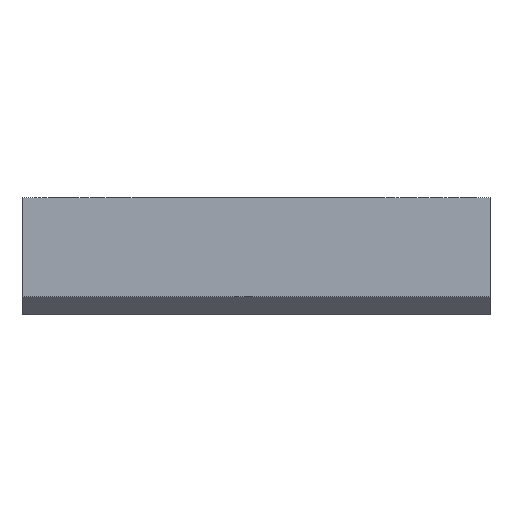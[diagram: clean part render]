
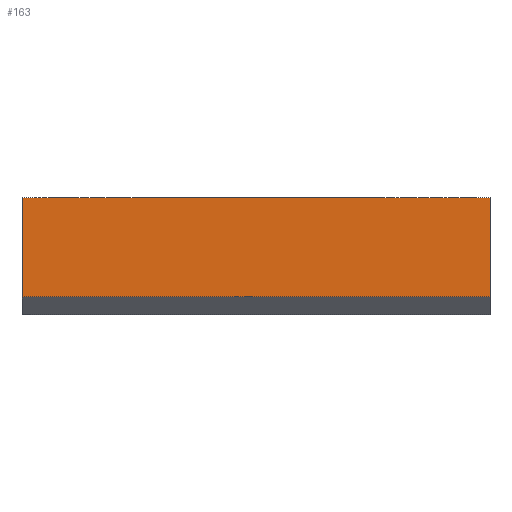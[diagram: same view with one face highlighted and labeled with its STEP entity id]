
A CAD part, front view. The second image highlights one B-rep face of the part: STEP entity #163.
In plain terms, the highlighted planar face has unit normal (0, -1, 0).
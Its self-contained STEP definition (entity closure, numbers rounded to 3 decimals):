
#163 = ADVANCED_FACE ( 'NONE', ( #7092 ), #3159, .T. ) ;
#284 = VERTEX_POINT ( 'NONE', #772 ) ;
#409 = CARTESIAN_POINT ( 'NONE',  ( 40., 0., 3. ) ) ;
#545 = AXIS2_PLACEMENT_3D ( 'NONE', #6483, #2036, #2596 ) ;
#617 = VECTOR ( 'NONE', #1685, 1000. ) ;
#772 = CARTESIAN_POINT ( 'NONE',  ( 80., 0., 3. ) ) ;
#795 = CARTESIAN_POINT ( 'NONE',  ( 80., 0., 20. ) ) ;
#866 = CARTESIAN_POINT ( 'NONE',  ( 0., 0., 11.5 ) ) ;
#1684 = VECTOR ( 'NONE', #3207, 1000. ) ;
#1685 = DIRECTION ( 'NONE',  ( 1., 0., 0. ) ) ;
#2025 = EDGE_LOOP ( 'NONE', ( #6520, #3850, #5998, #6521 ) ) ;
#2036 = DIRECTION ( 'NONE',  ( 0., -1., 0. ) ) ;
#2190 = EDGE_CURVE ( 'NONE', #284, #5742, #6149, .T. ) ;
#2503 = EDGE_CURVE ( 'NONE', #3271, #6700, #6160, .T. ) ;
#2596 = DIRECTION ( 'NONE',  ( 0., 0., -1. ) ) ;
#3104 = CARTESIAN_POINT ( 'NONE',  ( 80., 0., 11.5 ) ) ;
#3159 = PLANE ( 'NONE',  #545 ) ;
#3163 = LINE ( 'NONE', #409, #1684 ) ;
#3207 = DIRECTION ( 'NONE',  ( 1., 0., 0. ) ) ;
#3271 = VERTEX_POINT ( 'NONE', #6062 ) ;
#3850 = ORIENTED_EDGE ( 'NONE', *, *, #6764, .F. ) ;
#4169 = DIRECTION ( 'NONE',  ( 0., 0., 1. ) ) ;
#4280 = EDGE_CURVE ( 'NONE', #3271, #284, #3163, .T. ) ;
#4657 = VECTOR ( 'NONE', #5859, 1000. ) ;
#4743 = VECTOR ( 'NONE', #4169, 1000. ) ;
#4962 = CARTESIAN_POINT ( 'NONE',  ( 40., 0., 20. ) ) ;
#5742 = VERTEX_POINT ( 'NONE', #795 ) ;
#5859 = DIRECTION ( 'NONE',  ( 0., 0., 1. ) ) ;
#5998 = ORIENTED_EDGE ( 'NONE', *, *, #2503, .F. ) ;
#6062 = CARTESIAN_POINT ( 'NONE',  ( 0., 0., 3. ) ) ;
#6149 = LINE ( 'NONE', #3104, #4657 ) ;
#6160 = LINE ( 'NONE', #866, #4743 ) ;
#6483 = CARTESIAN_POINT ( 'NONE',  ( 0., 0., 0. ) ) ;
#6492 = LINE ( 'NONE', #4962, #617 ) ;
#6520 = ORIENTED_EDGE ( 'NONE', *, *, #2190, .T. ) ;
#6521 = ORIENTED_EDGE ( 'NONE', *, *, #4280, .T. ) ;
#6700 = VERTEX_POINT ( 'NONE', #7177 ) ;
#6764 = EDGE_CURVE ( 'NONE', #6700, #5742, #6492, .T. ) ;
#7092 = FACE_OUTER_BOUND ( 'NONE', #2025, .T. ) ;
#7177 = CARTESIAN_POINT ( 'NONE',  ( 0., 0., 20. ) ) ;
